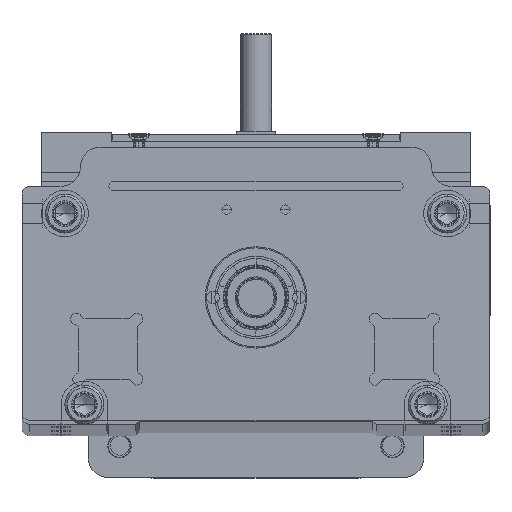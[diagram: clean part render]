
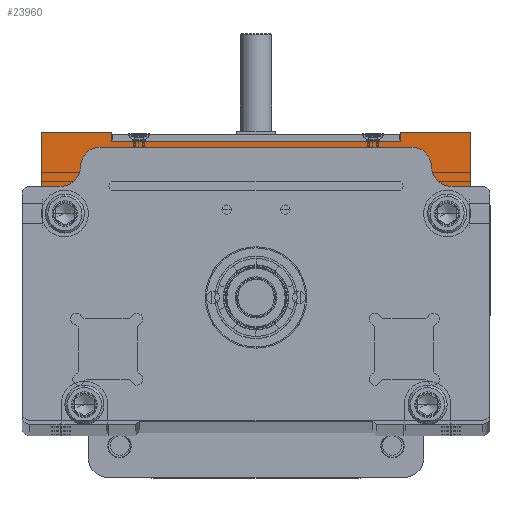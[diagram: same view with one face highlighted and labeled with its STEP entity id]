
A CAD part, top view. The second image highlights one B-rep face of the part: STEP entity #23960.
In plain terms, the highlighted planar face has unit normal (0, 0, 1) as drawn and (1, 0, 0) by its records, which use the part's own axes.
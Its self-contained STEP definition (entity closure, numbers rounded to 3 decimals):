
#188 = AXIS2_PLACEMENT_3D ( 'NONE', #50516, #22264, #67467 ) ;
#1133 = EDGE_CURVE ( 'NONE', #31999, #31991, #43222, .T. ) ;
#1894 = VECTOR ( 'NONE', #21970, 1000. ) ;
#1953 = DIRECTION ( 'NONE',  ( 0., -1., 0. ) ) ;
#2046 = FACE_OUTER_BOUND ( 'NONE', #26889, .T. ) ;
#3294 = CARTESIAN_POINT ( 'NONE',  ( 75., 55., 7.5 ) ) ;
#3742 = VECTOR ( 'NONE', #18510, 1000. ) ;
#6674 = DIRECTION ( 'NONE',  ( 0., 0., -1. ) ) ;
#6947 = ORIENTED_EDGE ( 'NONE', *, *, #51700, .T. ) ;
#7404 = CARTESIAN_POINT ( 'NONE',  ( 75., -55., 7.5 ) ) ;
#9757 = DIRECTION ( 'NONE',  ( 0., 1., 0. ) ) ;
#10732 = CARTESIAN_POINT ( 'NONE',  ( 75., 37., 0. ) ) ;
#12011 = ORIENTED_EDGE ( 'NONE', *, *, #1133, .T. ) ;
#12605 = EDGE_CURVE ( 'NONE', #41138, #31999, #58540, .T. ) ;
#16762 = LINE ( 'NONE', #10732, #1894 ) ;
#18053 = EDGE_CURVE ( 'NONE', #45220, #65075, #29173, .T. ) ;
#18510 = DIRECTION ( 'NONE',  ( 0., 0., 1. ) ) ;
#18808 = VECTOR ( 'NONE', #72306, 1000. ) ;
#18834 = EDGE_CURVE ( 'NONE', #26473, #31991, #65128, .T. ) ;
#18928 = EDGE_CURVE ( 'NONE', #41138, #38134, #16762, .T. ) ;
#19968 = ORIENTED_EDGE ( 'NONE', *, *, #22199, .F. ) ;
#20323 = ORIENTED_EDGE ( 'NONE', *, *, #18834, .F. ) ;
#21970 = DIRECTION ( 'NONE',  ( 0., 0., 1. ) ) ;
#22199 = EDGE_CURVE ( 'NONE', #38134, #45220, #71577, .T. ) ;
#22264 = DIRECTION ( 'NONE',  ( -1., 0., 0. ) ) ;
#22483 = VECTOR ( 'NONE', #1953, 1000. ) ;
#23889 = ORIENTED_EDGE ( 'NONE', *, *, #18053, .F. ) ;
#23960 = ADVANCED_FACE ( 'NONE', ( #2046 ), #72124, .F. ) ;
#25854 = LINE ( 'NONE', #66934, #18808 ) ;
#26473 = VERTEX_POINT ( 'NONE', #28126 ) ;
#26530 = CARTESIAN_POINT ( 'NONE',  ( 75., 55., 7.5 ) ) ;
#26889 = EDGE_LOOP ( 'NONE', ( #48948, #12011, #20323, #63571, #6947, #23889, #19968, #39714 ) ) ;
#28126 = CARTESIAN_POINT ( 'NONE',  ( 75., -55., 7.5 ) ) ;
#29002 = DIRECTION ( 'NONE',  ( 0., 0., -1. ) ) ;
#29173 = LINE ( 'NONE', #62649, #70414 ) ;
#31991 = VERTEX_POINT ( 'NONE', #71690 ) ;
#31999 = VERTEX_POINT ( 'NONE', #54785 ) ;
#32092 = VECTOR ( 'NONE', #37114, 1000. ) ;
#33537 = CARTESIAN_POINT ( 'NONE',  ( 75., 37., 7.5 ) ) ;
#35052 = CARTESIAN_POINT ( 'NONE',  ( 75., -37., 0. ) ) ;
#37114 = DIRECTION ( 'NONE',  ( 0., 1., 0. ) ) ;
#37345 = EDGE_CURVE ( 'NONE', #26473, #50176, #65751, .T. ) ;
#38134 = VERTEX_POINT ( 'NONE', #33537 ) ;
#39714 = ORIENTED_EDGE ( 'NONE', *, *, #18928, .F. ) ;
#40120 = CARTESIAN_POINT ( 'NONE',  ( 75., 37., 5. ) ) ;
#41138 = VERTEX_POINT ( 'NONE', #40120 ) ;
#42299 = VECTOR ( 'NONE', #9757, 1000. ) ;
#43222 = LINE ( 'NONE', #35052, #3742 ) ;
#45220 = VERTEX_POINT ( 'NONE', #3294 ) ;
#46338 = CARTESIAN_POINT ( 'NONE',  ( 75., 0., 5. ) ) ;
#48948 = ORIENTED_EDGE ( 'NONE', *, *, #12605, .T. ) ;
#50176 = VERTEX_POINT ( 'NONE', #69606 ) ;
#50516 = CARTESIAN_POINT ( 'NONE',  ( 75., 55., 7.5 ) ) ;
#51700 = EDGE_CURVE ( 'NONE', #50176, #65075, #25854, .T. ) ;
#54440 = CARTESIAN_POINT ( 'NONE',  ( 75., 55., 7.5 ) ) ;
#54785 = CARTESIAN_POINT ( 'NONE',  ( 75., -37., 5. ) ) ;
#58540 = LINE ( 'NONE', #46338, #22483 ) ;
#62649 = CARTESIAN_POINT ( 'NONE',  ( 75., 55., 7.5 ) ) ;
#63571 = ORIENTED_EDGE ( 'NONE', *, *, #37345, .T. ) ;
#63982 = VECTOR ( 'NONE', #6674, 1000. ) ;
#65075 = VERTEX_POINT ( 'NONE', #66510 ) ;
#65128 = LINE ( 'NONE', #54440, #42299 ) ;
#65751 = LINE ( 'NONE', #7404, #63982 ) ;
#66510 = CARTESIAN_POINT ( 'NONE',  ( 75., 55., -7.5 ) ) ;
#66934 = CARTESIAN_POINT ( 'NONE',  ( 75., 55., -7.5 ) ) ;
#67467 = DIRECTION ( 'NONE',  ( 0., 0., 1. ) ) ;
#69606 = CARTESIAN_POINT ( 'NONE',  ( 75., -55., -7.5 ) ) ;
#70414 = VECTOR ( 'NONE', #29002, 1000. ) ;
#71577 = LINE ( 'NONE', #26530, #32092 ) ;
#71690 = CARTESIAN_POINT ( 'NONE',  ( 75., -37., 7.5 ) ) ;
#72124 = PLANE ( 'NONE',  #188 ) ;
#72306 = DIRECTION ( 'NONE',  ( 0., 1., 0. ) ) ;
